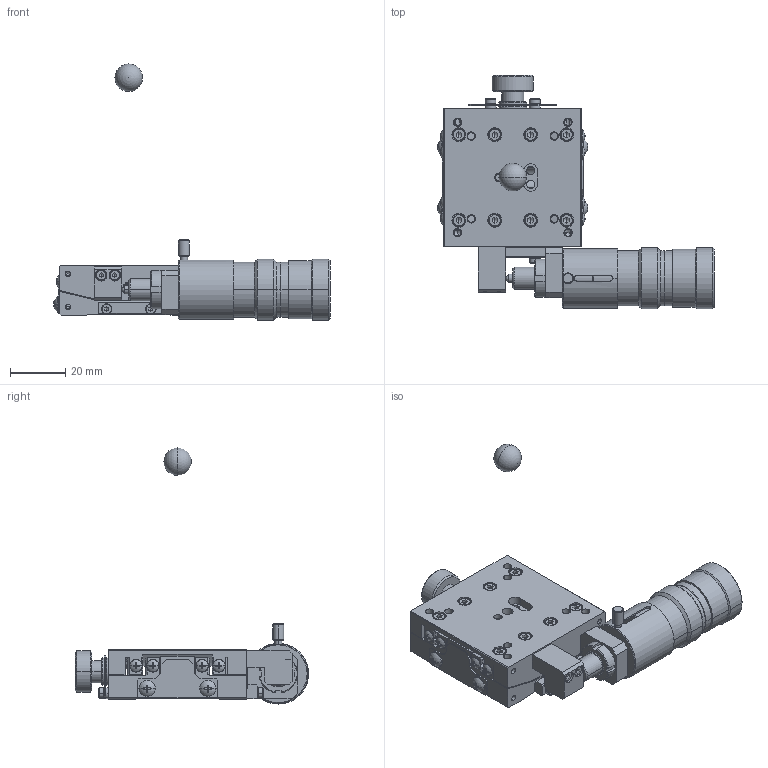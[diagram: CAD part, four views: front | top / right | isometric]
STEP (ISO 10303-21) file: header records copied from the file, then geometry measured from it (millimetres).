
FILE_DESCRIPTION (( 'STEP AP214' ), '1' );
FILE_NAME ('ST05A-S3M-CL.STEP', '2007-01-19T00:39:27', ( ' ' ), ( ' ' ), 'SwSTEP 2.0', 'SolidWorks 2006052', '' );
FILE_SCHEMA (( 'AUTOMOTIVE_DESIGN' ));
Length unit declared in the file: millimetre
Products named in the file (5): 002570-1020(3D); ST05A-S3M-CL-Part-1; FFP03-13(spindle)-2; ST05A-S3M-CL; 002570-1010(3D)
Assembly tree (4 placements, depth 2):
  ST05A-S3M-CL
    002570-1020(3D)
    FFP03-13(spindle)-2
    ST05A-S3M-CL-Part-1
    002570-1010(3D)
Bounding box: 100.18 x 84.5 x 92.75 mm (x, y, z)
Volume: 61016.6 mm3; surface area: 35848.3 mm2
Topology: 4 solids, 37 shells, 1822 faces, 4454 edges, 2671 vertices
Faces by surface type: plane 787, cylinder 592, cone 348, torus 68, sphere 27
Entity records: 56519 total; most frequent: CARTESIAN_POINT 13552, DIRECTION 9286, ORIENTED_EDGE 8694, EDGE_CURVE 4347, AXIS2_PLACEMENT_3D 3579, VERTEX_POINT 2668, VECTOR 2128, LINE 2128
